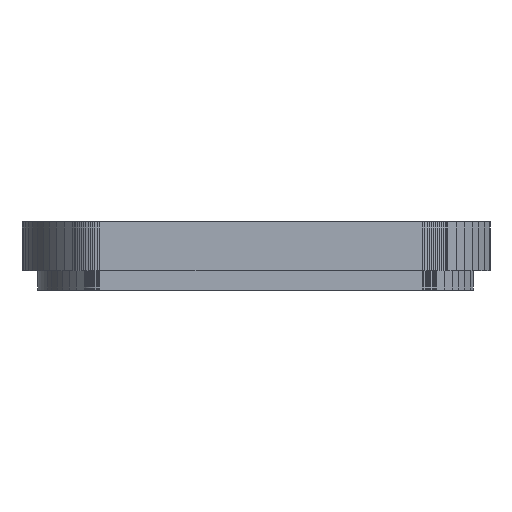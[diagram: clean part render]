
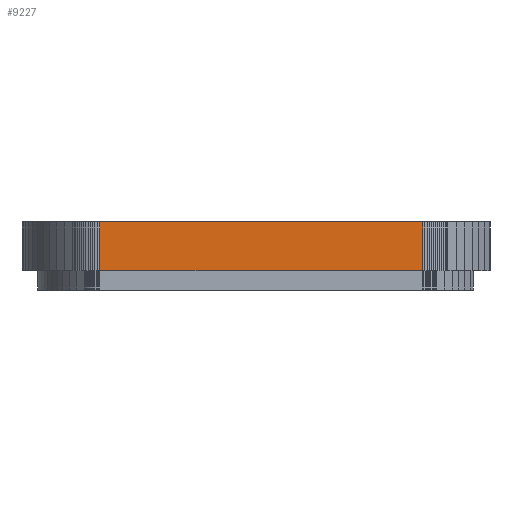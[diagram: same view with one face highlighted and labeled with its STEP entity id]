
A CAD part, front view. The second image highlights one B-rep face of the part: STEP entity #9227.
In plain terms, the highlighted free-form (B-spline) face has degree [1, 1] with [2, 2] control points.
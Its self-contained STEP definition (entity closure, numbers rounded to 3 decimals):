
#70 = B_SPLINE_SURFACE_WITH_KNOTS('',1,1,(
    (#71,#72)
    ,(#73,#74)),.UNSPECIFIED.,.F.,.F.,.F.,(2,2),(2,2),(-967.924,
    967.868),(-572.848,573.233),
  .PIECEWISE_BEZIER_KNOTS.);
#71 = CARTESIAN_POINT('',(43.364,-14.55,
    11.));
#72 = CARTESIAN_POINT('',(43.364,14.56,
    11.));
#73 = CARTESIAN_POINT('',(-5.805,-14.55,
    11.));
#74 = CARTESIAN_POINT('',(-5.805,14.56,
    11.));
#122 = B_SPLINE_SURFACE_WITH_KNOTS('',1,1,(
    (#123,#124)
    ,(#125,#126
    )),.UNSPECIFIED.,.F.,.F.,.F.,(2,2),(2,2),(-967.924,
    967.868),(-572.848,573.233),
  .PIECEWISE_BEZIER_KNOTS.);
#123 = CARTESIAN_POINT('',(43.364,-14.55,
    6.));
#124 = CARTESIAN_POINT('',(43.364,14.56,
    6.));
#125 = CARTESIAN_POINT('',(-5.805,-14.55,
    6.));
#126 = CARTESIAN_POINT('',(-5.805,14.56,
    6.));
#4783 = VERTEX_POINT('',#4784);
#4784 = CARTESIAN_POINT('',(35.357,-14.55,
    6.));
#4797 = B_SPLINE_SURFACE_WITH_KNOTS('',1,1,(
    (#4798,#4799)
    ,(#4800,#4801
    )),.UNSPECIFIED.,.F.,.F.,.F.,(2,2),(2,2),(0.,9.013),(
    -236.221,0.),.PIECEWISE_BEZIER_KNOTS.);
#4798 = CARTESIAN_POINT('',(35.586,-14.543,
    11.));
#4799 = CARTESIAN_POINT('',(35.586,-14.543,
    6.));
#4800 = CARTESIAN_POINT('',(35.357,-14.55,
    11.));
#4801 = CARTESIAN_POINT('',(35.357,-14.55,
    6.));
#4809 = EDGE_CURVE('',#4783,#4810,#4812,.T.);
#4810 = VERTEX_POINT('',#4811);
#4811 = CARTESIAN_POINT('',(2.177,-14.548,6.
    ));
#4812 = SURFACE_CURVE('',#4813,(#4816,#4823),.PCURVE_S1.);
#4813 = B_SPLINE_CURVE_WITH_KNOTS('',1,(#4814,#4815),.UNSPECIFIED.,.F.,
  .F.,(2,2),(0.,1306.274),.PIECEWISE_BEZIER_KNOTS.);
#4814 = CARTESIAN_POINT('',(35.357,-14.55,
    6.));
#4815 = CARTESIAN_POINT('',(2.177,-14.548,6.
    ));
#4816 = PCURVE('',#122,#4817);
#4817 = DEFINITIONAL_REPRESENTATION('',(#4818),#4822);
#4818 = B_SPLINE_CURVE_WITH_KNOTS('',2,(#4819,#4820,#4821),
  .UNSPECIFIED.,.F.,.F.,(3,3),(0.,1306.274),
  .PIECEWISE_BEZIER_KNOTS.);
#4819 = CARTESIAN_POINT('',(-652.665,-572.848));
#4820 = CARTESIAN_POINT('',(0.471,-572.812));
#4821 = CARTESIAN_POINT('',(653.608,-572.776));
#4822 = ( GEOMETRIC_REPRESENTATION_CONTEXT(2) 
PARAMETRIC_REPRESENTATION_CONTEXT() REPRESENTATION_CONTEXT('2D SPACE',''
  ) );
#4823 = PCURVE('',#4824,#4829);
#4824 = B_SPLINE_SURFACE_WITH_KNOTS('',1,1,(
    (#4825,#4826)
    ,(#4827,#4828
    )),.UNSPECIFIED.,.F.,.F.,.F.,(2,2),(2,2),(0.,1306.274),(
    -236.221,0.),.PIECEWISE_BEZIER_KNOTS.);
#4825 = CARTESIAN_POINT('',(35.357,-14.55,
    11.));
#4826 = CARTESIAN_POINT('',(35.357,-14.55,
    6.));
#4827 = CARTESIAN_POINT('',(2.177,-14.548,
    11.));
#4828 = CARTESIAN_POINT('',(2.177,-14.548,6.
    ));
#4829 = DEFINITIONAL_REPRESENTATION('',(#4830),#4834);
#4830 = B_SPLINE_CURVE_WITH_KNOTS('',2,(#4831,#4832,#4833),
  .UNSPECIFIED.,.F.,.F.,(3,3),(0.,1306.274),
  .PIECEWISE_BEZIER_KNOTS.);
#4831 = CARTESIAN_POINT('',(0.,0.));
#4832 = CARTESIAN_POINT('',(653.137,0.));
#4833 = CARTESIAN_POINT('',(1306.274,0.));
#4834 = ( GEOMETRIC_REPRESENTATION_CONTEXT(2) 
PARAMETRIC_REPRESENTATION_CONTEXT() REPRESENTATION_CONTEXT('2D SPACE',''
  ) );
#4854 = B_SPLINE_SURFACE_WITH_KNOTS('',1,1,(
    (#4855,#4856)
    ,(#4857,#4858
    )),.UNSPECIFIED.,.F.,.F.,.F.,(2,2),(2,2),(0.,9.649),(
    -236.221,0.),.PIECEWISE_BEZIER_KNOTS.);
#4855 = CARTESIAN_POINT('',(2.177,-14.548,
    11.));
#4856 = CARTESIAN_POINT('',(2.177,-14.548,6.
    ));
#4857 = CARTESIAN_POINT('',(1.933,-14.54,
    11.));
#4858 = CARTESIAN_POINT('',(1.933,-14.54,
    6.));
#7001 = VERTEX_POINT('',#7002);
#7002 = CARTESIAN_POINT('',(35.357,-14.55,
    11.));
#7022 = EDGE_CURVE('',#7001,#7023,#7025,.T.);
#7023 = VERTEX_POINT('',#7024);
#7024 = CARTESIAN_POINT('',(2.177,-14.548,
    11.));
#7025 = SURFACE_CURVE('',#7026,(#7029,#7036),.PCURVE_S1.);
#7026 = B_SPLINE_CURVE_WITH_KNOTS('',1,(#7027,#7028),.UNSPECIFIED.,.F.,
  .F.,(2,2),(0.,1306.274),.PIECEWISE_BEZIER_KNOTS.);
#7027 = CARTESIAN_POINT('',(35.357,-14.55,
    11.));
#7028 = CARTESIAN_POINT('',(2.177,-14.548,
    11.));
#7029 = PCURVE('',#70,#7030);
#7030 = DEFINITIONAL_REPRESENTATION('',(#7031),#7035);
#7031 = B_SPLINE_CURVE_WITH_KNOTS('',2,(#7032,#7033,#7034),
  .UNSPECIFIED.,.F.,.F.,(3,3),(0.,1306.274),
  .PIECEWISE_BEZIER_KNOTS.);
#7032 = CARTESIAN_POINT('',(-652.665,-572.848));
#7033 = CARTESIAN_POINT('',(0.471,-572.812));
#7034 = CARTESIAN_POINT('',(653.608,-572.776));
#7035 = ( GEOMETRIC_REPRESENTATION_CONTEXT(2) 
PARAMETRIC_REPRESENTATION_CONTEXT() REPRESENTATION_CONTEXT('2D SPACE',''
  ) );
#7036 = PCURVE('',#4824,#7037);
#7037 = DEFINITIONAL_REPRESENTATION('',(#7038),#7042);
#7038 = B_SPLINE_CURVE_WITH_KNOTS('',2,(#7039,#7040,#7041),
  .UNSPECIFIED.,.F.,.F.,(3,3),(0.,1306.274),
  .PIECEWISE_BEZIER_KNOTS.);
#7039 = CARTESIAN_POINT('',(0.,-236.221));
#7040 = CARTESIAN_POINT('',(653.137,-236.221));
#7041 = CARTESIAN_POINT('',(1306.274,-236.221));
#7042 = ( GEOMETRIC_REPRESENTATION_CONTEXT(2) 
PARAMETRIC_REPRESENTATION_CONTEXT() REPRESENTATION_CONTEXT('2D SPACE',''
  ) );
#9205 = EDGE_CURVE('',#4810,#7023,#9206,.T.);
#9206 = SURFACE_CURVE('',#9207,(#9210,#9217),.PCURVE_S1.);
#9207 = B_SPLINE_CURVE_WITH_KNOTS('',1,(#9208,#9209),.UNSPECIFIED.,.F.,
  .F.,(2,2),(0.,236.221),.PIECEWISE_BEZIER_KNOTS.);
#9208 = CARTESIAN_POINT('',(2.177,-14.548,6.
    ));
#9209 = CARTESIAN_POINT('',(2.177,-14.548,
    11.));
#9210 = PCURVE('',#4854,#9211);
#9211 = DEFINITIONAL_REPRESENTATION('',(#9212),#9216);
#9212 = B_SPLINE_CURVE_WITH_KNOTS('',2,(#9213,#9214,#9215),
  .UNSPECIFIED.,.F.,.F.,(3,3),(0.,236.221),.PIECEWISE_BEZIER_KNOTS.);
#9213 = CARTESIAN_POINT('',(0.,0.));
#9214 = CARTESIAN_POINT('',(0.,-118.11));
#9215 = CARTESIAN_POINT('',(0.,-236.221));
#9216 = ( GEOMETRIC_REPRESENTATION_CONTEXT(2) 
PARAMETRIC_REPRESENTATION_CONTEXT() REPRESENTATION_CONTEXT('2D SPACE',''
  ) );
#9217 = PCURVE('',#4824,#9218);
#9218 = DEFINITIONAL_REPRESENTATION('',(#9219),#9223);
#9219 = B_SPLINE_CURVE_WITH_KNOTS('',2,(#9220,#9221,#9222),
  .UNSPECIFIED.,.F.,.F.,(3,3),(0.,236.221),.PIECEWISE_BEZIER_KNOTS.);
#9220 = CARTESIAN_POINT('',(1306.274,0.));
#9221 = CARTESIAN_POINT('',(1306.274,-118.11));
#9222 = CARTESIAN_POINT('',(1306.274,-236.221));
#9223 = ( GEOMETRIC_REPRESENTATION_CONTEXT(2) 
PARAMETRIC_REPRESENTATION_CONTEXT() REPRESENTATION_CONTEXT('2D SPACE',''
  ) );
#9227 = ADVANCED_FACE('',(#9228),#4824,.T.);
#9228 = FACE_BOUND('',#9229,.T.);
#9229 = EDGE_LOOP('',(#9230,#9250,#9251,#9252));
#9230 = ORIENTED_EDGE('',*,*,#9231,.T.);
#9231 = EDGE_CURVE('',#4783,#7001,#9232,.T.);
#9232 = SURFACE_CURVE('',#9233,(#9236,#9243),.PCURVE_S1.);
#9233 = B_SPLINE_CURVE_WITH_KNOTS('',1,(#9234,#9235),.UNSPECIFIED.,.F.,
  .F.,(2,2),(0.,236.221),.PIECEWISE_BEZIER_KNOTS.);
#9234 = CARTESIAN_POINT('',(35.357,-14.55,
    6.));
#9235 = CARTESIAN_POINT('',(35.357,-14.55,
    11.));
#9236 = PCURVE('',#4824,#9237);
#9237 = DEFINITIONAL_REPRESENTATION('',(#9238),#9242);
#9238 = B_SPLINE_CURVE_WITH_KNOTS('',2,(#9239,#9240,#9241),
  .UNSPECIFIED.,.F.,.F.,(3,3),(0.,236.221),.PIECEWISE_BEZIER_KNOTS.);
#9239 = CARTESIAN_POINT('',(0.,0.));
#9240 = CARTESIAN_POINT('',(0.,-118.11));
#9241 = CARTESIAN_POINT('',(0.,-236.221));
#9242 = ( GEOMETRIC_REPRESENTATION_CONTEXT(2) 
PARAMETRIC_REPRESENTATION_CONTEXT() REPRESENTATION_CONTEXT('2D SPACE',''
  ) );
#9243 = PCURVE('',#4797,#9244);
#9244 = DEFINITIONAL_REPRESENTATION('',(#9245),#9249);
#9245 = B_SPLINE_CURVE_WITH_KNOTS('',2,(#9246,#9247,#9248),
  .UNSPECIFIED.,.F.,.F.,(3,3),(0.,236.221),.PIECEWISE_BEZIER_KNOTS.);
#9246 = CARTESIAN_POINT('',(9.013,0.));
#9247 = CARTESIAN_POINT('',(9.013,-118.11));
#9248 = CARTESIAN_POINT('',(9.013,-236.221));
#9249 = ( GEOMETRIC_REPRESENTATION_CONTEXT(2) 
PARAMETRIC_REPRESENTATION_CONTEXT() REPRESENTATION_CONTEXT('2D SPACE',''
  ) );
#9250 = ORIENTED_EDGE('',*,*,#7022,.T.);
#9251 = ORIENTED_EDGE('',*,*,#9205,.F.);
#9252 = ORIENTED_EDGE('',*,*,#4809,.F.);
